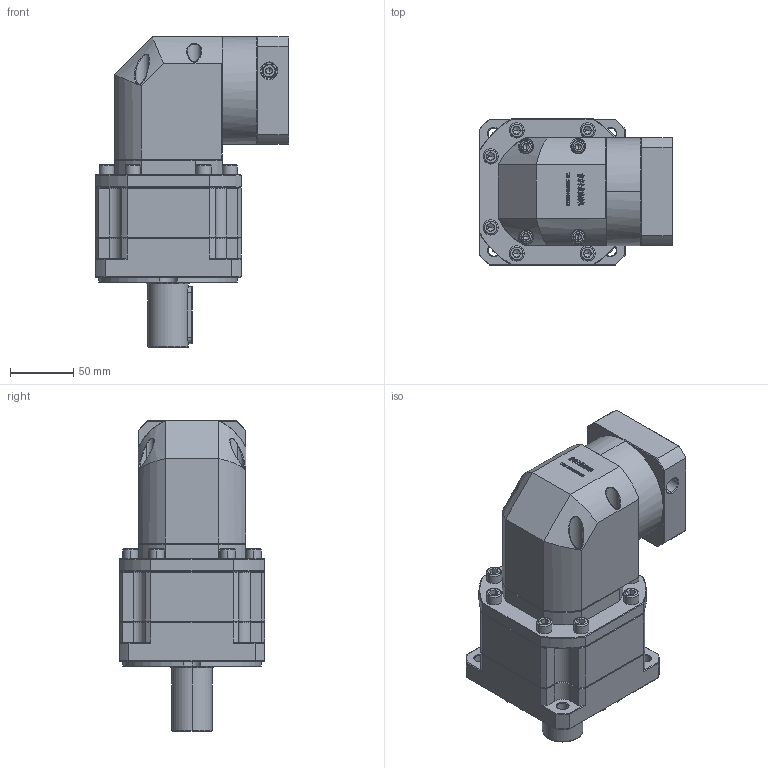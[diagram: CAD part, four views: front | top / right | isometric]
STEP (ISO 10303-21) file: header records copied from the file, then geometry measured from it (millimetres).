
FILE_DESCRIPTION (( 'STEP AP214' ), '1' );
FILE_NAME ('ZBR115A-D32-L2-19-70-90-M6.step', '2023-03-02T14:37:02', ( '' ), ( 'Microsoft' ), 'SwSTEP 2.0', 'SolidWorks 2016', '' );
FILE_SCHEMA (( 'AUTOMOTIVE_DESIGN' ));
Length unit declared in the file: millimetre
Products named in the file (1): ZBR115A-D32-L2-19-70-90-M6
Bounding box: 152.6 x 115 x 245 mm (x, y, z)
Volume: 1955407.1 mm3; surface area: 177581.7 mm2
Topology: 6 solids, 6 shells, 3197 faces, 8390 edges, 5344 vertices
Faces by surface type: plane 1701, bspline 633, cylinder 476, cone 373, torus 14
Entity records: 171133 total; most frequent: CARTESIAN_POINT 62340, ORIENTED_EDGE 16672, DIRECTION 12837, EDGE_CURVE 8336, VECTOR 5597, LINE 5597, VERTEX_POINT 5344, AXIS2_PLACEMENT_3D 3620
